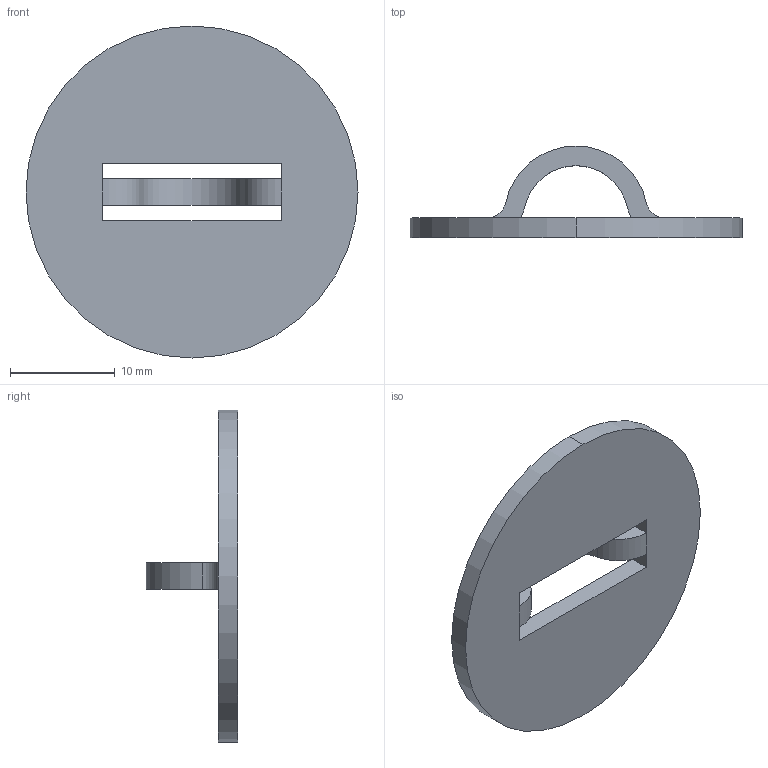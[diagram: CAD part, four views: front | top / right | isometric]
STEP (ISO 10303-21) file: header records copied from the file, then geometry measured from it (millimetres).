
FILE_DESCRIPTION (( 'STEP AP203' ), '1' );
FILE_NAME ('1737556-10 FU BRIDGE LANCE .098W X .635L X .197H X .074 THK.STEP', '2024-11-18T17:17:09', ( '' ), ( '' ), 'SwSTEP 2.0', 'SolidWorks 2024', '' );
FILE_SCHEMA (( 'CONFIG_CONTROL_DESIGN' ));
Length unit declared in the file: inch
Products named in the file (1): 1737556-10 FU BRIDGE LANCE .098W X .635L X .197H X .074 THK
Bounding box: 31.75 x 8.76 x 31.75 mm (x, y, z)
Volume: 1421.1 mm3; surface area: 1864.6 mm2
Topology: 1 solids, 1 shells, 18 faces, 46 edges, 28 vertices
Faces by surface type: plane 10, cylinder 8
Entity records: 629 total; most frequent: DIRECTION 100, CARTESIAN_POINT 93, ORIENTED_EDGE 92, EDGE_CURVE 46, AXIS2_PLACEMENT_3D 35, LINE 30, VECTOR 30, VERTEX_POINT 28
